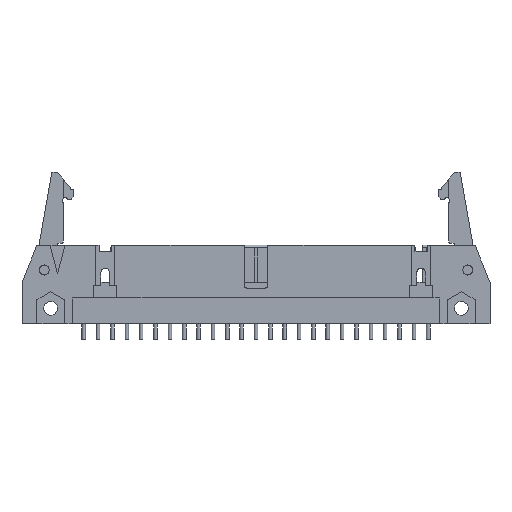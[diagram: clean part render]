
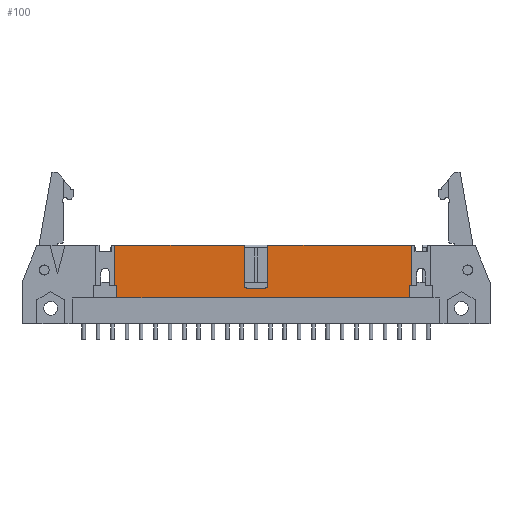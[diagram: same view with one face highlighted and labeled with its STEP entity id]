
A CAD part, front view. The second image highlights one B-rep face of the part: STEP entity #100.
In plain terms, the highlighted planar face has unit normal (0, -1, 0).
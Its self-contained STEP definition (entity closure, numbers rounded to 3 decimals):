
#100=ADVANCED_FACE('',(#857),#858,.T.);
#857=FACE_OUTER_BOUND('',#2379,.T.);
#858=PLANE('',#2380);
#2379=EDGE_LOOP('',(#4349,#4350,#4351,#4352,#4353,#4354,#4355,#4356,#4357,#4358,#4359,#4360,#4361,#4362));
#2380=AXIS2_PLACEMENT_3D('',#4363,#4364,#4365);
#4349=ORIENTED_EDGE('',*,*,#9680,.F.);
#4350=ORIENTED_EDGE('',*,*,#9681,.F.);
#4351=ORIENTED_EDGE('',*,*,#9682,.T.);
#4352=ORIENTED_EDGE('',*,*,#9683,.F.);
#4353=ORIENTED_EDGE('',*,*,#9684,.F.);
#4354=ORIENTED_EDGE('',*,*,#9685,.F.);
#4355=ORIENTED_EDGE('',*,*,#9528,.T.);
#4356=ORIENTED_EDGE('',*,*,#9646,.T.);
#4357=ORIENTED_EDGE('',*,*,#9686,.F.);
#4358=ORIENTED_EDGE('',*,*,#9687,.F.);
#4359=ORIENTED_EDGE('',*,*,#9688,.F.);
#4360=ORIENTED_EDGE('',*,*,#9689,.F.);
#4361=ORIENTED_EDGE('',*,*,#9589,.T.);
#4362=ORIENTED_EDGE('',*,*,#9690,.T.);
#4363=CARTESIAN_POINT('',(0.0,-4.001,0.0));
#4364=DIRECTION('',(0.0,-1.0,0.0));
#4365=DIRECTION('',(0.0,0.0,-1.0));
#9528=EDGE_CURVE('',#11406,#11404,#11407,.T.);
#9589=EDGE_CURVE('',#11526,#11523,#11527,.T.);
#9646=EDGE_CURVE('',#11404,#11624,#11626,.T.);
#9680=EDGE_CURVE('',#11690,#11691,#11692,.T.);
#9681=EDGE_CURVE('',#11693,#11690,#11694,.T.);
#9682=EDGE_CURVE('',#11693,#11695,#11696,.T.);
#9683=EDGE_CURVE('',#11697,#11695,#11698,.T.);
#9684=EDGE_CURVE('',#11699,#11697,#11700,.T.);
#9685=EDGE_CURVE('',#11406,#11699,#11701,.T.);
#9686=EDGE_CURVE('',#11702,#11624,#11703,.T.);
#9687=EDGE_CURVE('',#11704,#11702,#11705,.T.);
#9688=EDGE_CURVE('',#11706,#11704,#11707,.T.);
#9689=EDGE_CURVE('',#11526,#11706,#11708,.T.);
#9690=EDGE_CURVE('',#11523,#11691,#11709,.T.);
#11404=VERTEX_POINT('',#14412);
#11406=VERTEX_POINT('',#14415);
#11407=LINE('',#14416,#14417);
#11523=VERTEX_POINT('',#14592);
#11526=VERTEX_POINT('',#14596);
#11527=LINE('',#14597,#14598);
#11624=VERTEX_POINT('',#14747);
#11626=LINE('',#14750,#14751);
#11690=VERTEX_POINT('',#14843);
#11691=VERTEX_POINT('',#14844);
#11692=LINE('',#14845,#14846);
#11693=VERTEX_POINT('',#14847);
#11694=LINE('',#14848,#14849);
#11695=VERTEX_POINT('',#14850);
#11696=LINE('',#14851,#14852);
#11697=VERTEX_POINT('',#14853);
#11698=LINE('',#14854,#14855);
#11699=VERTEX_POINT('',#14856);
#11700=LINE('',#14857,#14858);
#11701=LINE('',#14859,#14860);
#11702=VERTEX_POINT('',#14861);
#11703=CIRCLE('',#14862,0.508);
#11704=VERTEX_POINT('',#14863);
#11705=LINE('',#14864,#14865);
#11706=VERTEX_POINT('',#14866);
#11707=CIRCLE('',#14867,0.508);
#11708=LINE('',#14868,#14869);
#11709=LINE('',#14870,#14871);
#14412=CARTESIAN_POINT('',(2.096,-4.001,6.604));
#14415=CARTESIAN_POINT('',(27.508,-4.001,6.604));
#14416=CARTESIAN_POINT('',(27.508,-4.001,6.604));
#14417=VECTOR('',#18580,25.413);
#14592=CARTESIAN_POINT('',(-24.968,-4.001,6.604));
#14596=CARTESIAN_POINT('',(-2.096,-4.001,6.604));
#14597=CARTESIAN_POINT('',(-2.096,-4.001,6.604));
#14598=VECTOR('',#18641,22.873);
#14747=CARTESIAN_POINT('',(2.096,-4.001,-0.508));
#14750=CARTESIAN_POINT('',(2.096,-4.001,6.604));
#14751=VECTOR('',#18704,7.112);
#14843=CARTESIAN_POINT('',(-24.6,-4.001,-0.584));
#14844=CARTESIAN_POINT('',(-24.968,-4.001,-0.584));
#14845=CARTESIAN_POINT('',(-24.6,-4.001,-0.584));
#14846=VECTOR('',#18748,0.368);
#14847=CARTESIAN_POINT('',(-24.6,-4.001,-2.769));
#14848=CARTESIAN_POINT('',(-24.6,-4.001,-2.769));
#14849=VECTOR('',#18749,2.184);
#14850=CARTESIAN_POINT('',(27.14,-4.001,-2.769));
#14851=CARTESIAN_POINT('',(-24.6,-4.001,-2.769));
#14852=VECTOR('',#18750,51.74);
#14853=CARTESIAN_POINT('',(27.14,-4.001,-0.584));
#14854=CARTESIAN_POINT('',(27.14,-4.001,-0.584));
#14855=VECTOR('',#18751,2.184);
#14856=CARTESIAN_POINT('',(27.508,-4.001,-0.584));
#14857=CARTESIAN_POINT('',(27.508,-4.001,-0.584));
#14858=VECTOR('',#18752,0.368);
#14859=CARTESIAN_POINT('',(27.508,-4.001,6.604));
#14860=VECTOR('',#18753,7.188);
#14861=CARTESIAN_POINT('',(1.588,-4.001,-1.016));
#14862=AXIS2_PLACEMENT_3D('',#18754,#18755,#18756);
#14863=CARTESIAN_POINT('',(-1.588,-4.001,-1.016));
#14864=CARTESIAN_POINT('',(-1.588,-4.001,-1.016));
#14865=VECTOR('',#18757,3.175);
#14866=CARTESIAN_POINT('',(-2.096,-4.001,-0.508));
#14867=AXIS2_PLACEMENT_3D('',#18758,#18759,#18760);
#14868=CARTESIAN_POINT('',(-2.096,-4.001,6.604));
#14869=VECTOR('',#18761,7.112);
#14870=CARTESIAN_POINT('',(-24.968,-4.001,6.604));
#14871=VECTOR('',#18762,7.188);
#18580=DIRECTION('',(-1.0,0.0,0.0));
#18641=DIRECTION('',(-1.0,0.0,0.0));
#18704=DIRECTION('',(0.0,0.0,-1.0));
#18748=DIRECTION('',(-1.0,0.0,0.0));
#18749=DIRECTION('',(0.0,0.0,1.0));
#18750=DIRECTION('',(1.0,0.0,0.0));
#18751=DIRECTION('',(0.0,0.0,-1.0));
#18752=DIRECTION('',(-1.0,0.0,0.0));
#18753=DIRECTION('',(0.0,0.0,-1.0));
#18754=CARTESIAN_POINT('',(1.588,-4.001,-0.508));
#18755=DIRECTION('',(0.0,-1.0,0.0));
#18756=DIRECTION('',(0.0,0.0,-1.0));
#18757=DIRECTION('',(1.0,0.0,0.0));
#18758=CARTESIAN_POINT('',(-1.588,-4.001,-0.508));
#18759=DIRECTION('',(0.0,-1.0,-0.0));
#18760=DIRECTION('',(-1.0,0.0,0.));
#18761=DIRECTION('',(0.0,0.0,-1.0));
#18762=DIRECTION('',(0.0,0.0,-1.0));
